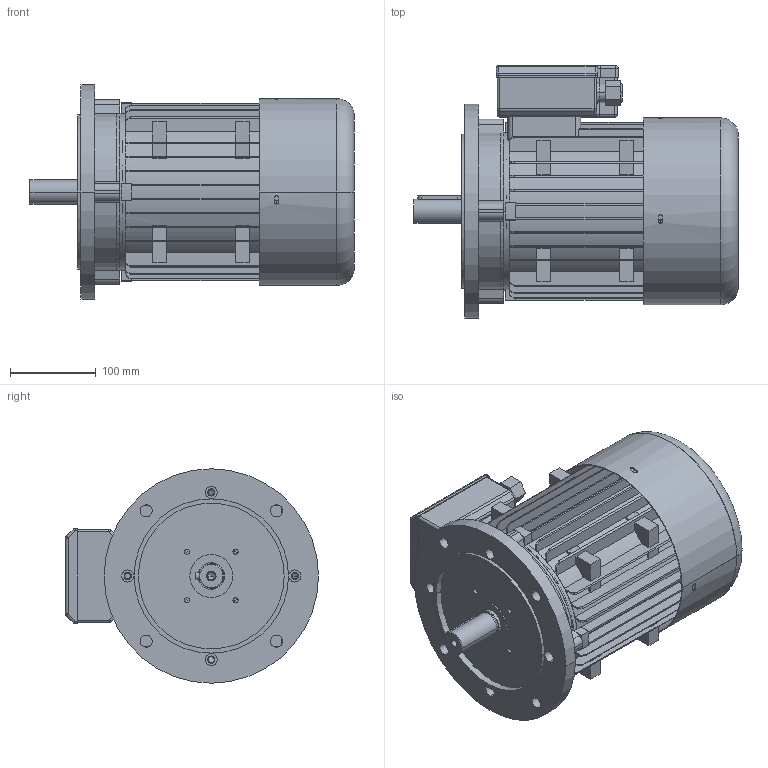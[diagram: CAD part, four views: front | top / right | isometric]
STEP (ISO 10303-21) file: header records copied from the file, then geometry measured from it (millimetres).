
FILE_DESCRIPTION((''),'2;1');
FILE_NAME('M112M_ASM','2014-12-17T',('StemBG2'),(''),'PRO/ENGINEER BY PARAMETRIC TECHNOLOGY CORPORATION, 2008020','PRO/ENGINEER BY PARAMETRIC TECHNOLOGY CORPORATION, 2008020','');
FILE_SCHEMA(('AUTOMOTIVE_DESIGN_CC2 { 1 2 10303 214 -1 1 5 2 }'));
Length unit declared in the file: millimetre
Products named in the file (6): HOU112M; SH112M; FCV112M; B5_112M; TBOX112M; M112M_ASM
Assembly tree (5 placements, depth 2):
  M112M_ASM
    HOU112M
    SH112M
    FCV112M
    B5_112M
    TBOX112M
Bounding box: 379 x 295 x 250 mm (x, y, z)
Volume: 7268730 mm3; surface area: 802029.5 mm2
Topology: 5 solids, 6 shells, 766 faces, 2034 edges, 1299 vertices
Faces by surface type: plane 405, cylinder 258, bspline 48, cone 43, torus 10, sphere 2
Entity records: 26683 total; most frequent: CARTESIAN_POINT 5616, DIRECTION 4089, ORIENTED_EDGE 4060, EDGE_CURVE 2032, AXIS2_PLACEMENT_3D 1488, VERTEX_POINT 1299, VECTOR 1113, LINE 1113
